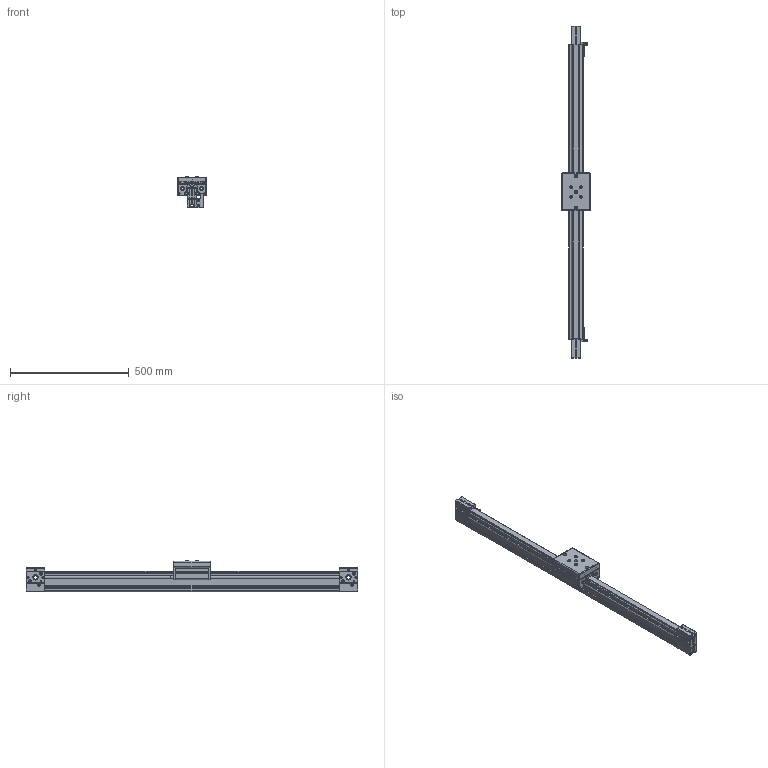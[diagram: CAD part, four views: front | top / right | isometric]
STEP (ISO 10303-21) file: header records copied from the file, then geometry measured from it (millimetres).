
FILE_DESCRIPTION(/* description */ ('Unknown'),/* implementation_level */ '2;1');
FILE_NAME(/* name */ '0.0.662.70 - LRE 8 D10 80X40 ZU 40 R25 1000',/* time_stamp */ '2022-09-08T11:47:29-05:00',/* author */ ('Unknown'),/* organization */ ('Unknown'),/* preprocessor_version */ 'ST-DEVELOPER v16.7',/* originating_system */ 'Solid Edge',/* authorisation */ 'Unknown');
FILE_SCHEMA (('AUTOMOTIVE_DESIGN {1 0 10303 214 3 1 1}'));
Length unit declared in the file: millimetre
Products named in the file (26): LRE 8 D10 80X40 ZU 40 R25; Linear Unit LRE 8 D10 80x40 ZU 40 R25 _ 0066270 - 1000 x 500 -  0 - V
3; Timing-Belt Reverse Unit 8 40 R25 with Bore D15 _ 0066252; Profil 8 80x40 LRE _ 0002604 - 1240 mm; Shaft-Clamp Profile 8 D10, natural _ 0044203 - 1240 mm; Shaft D10, bright _ 0040109 - 1240 mm; Slide LRF 8 D10 120x160 _ 0065832 - V1; Abdeckkappe_LRF_8_D10_120x28_-_0065772; Double-Bearing Unit 8 D10 c _ 0044215 - V1; ABSTREIF- UND_SCHMIERSYSTEM_8_D10_-_0044223 - 140; Huelse_-_0064105; Slide LRF 8 D10 120x160 _ 0065832; Schlittenprofil_LRF_8_D10_120x28_-_0065803 - Schlitten_LRF_8_D10_120x
160 - 152 mm - V1; Zylinderschraube _DIN_912_M6x80_verzinkt_-_8000153-LRF; Timing-Belt Tensioner, Tensioning Block 8 R25 _ 0042629 - V2; Timing Belt Tensioner, Fixing Block 8 R25 _ 0042630 - V1; Schlittenanschlag_LRE_8_-_0068650_LINKS - V1; Schlittenanschlag_8_Traeger_00068649_0068650 - V1; Schlittenanschlag_8_Anschlag_00068648_0068650 - V1; Zylinderschraube_DIN6912_M6x20_00066000_0068650; Nutenstein_8_St_2xM6-36_0064451_0068650; Schlittenanschlag_LRE_8_-_0068650_RECHTS - V1; Linear Unit LRE 8 D10 80x40 ZU 40 R25 _ 0066270 - 1000; Zahnriemen R25 T10 - 0066270 _ 0033710_oa_0; Sechskantmutter_DIN985_M6-8_LRF; Linear Unit LRE 8 D10 80x40 ZU 40 R25 plus per mm stroke _ 0066772 - 
1000 - Linear Unit LRE 8 D10 80x40 ZU 40 R25
Assembly tree (47 placements, depth 4):
  LRE 8 D10 80X40 ZU 40 R25
    Linear Unit LRE 8 D10 80x40 ZU 40 R25 _ 0066270 - 1000 x 500 -  0 - V
3
      Timing-Belt Reverse Unit 8 40 R25 with Bore D15 _ 0066252  x2
      Profil 8 80x40 LRE _ 0002604 - 1240 mm
      Shaft-Clamp Profile 8 D10, natural _ 0044203 - 1240 mm  x2
      Shaft D10, bright _ 0040109 - 1240 mm  x2
      Slide LRF 8 D10 120x160 _ 0065832 - V1
        Abdeckkappe_LRF_8_D10_120x28_-_0065772  x2
        Double-Bearing Unit 8 D10 c _ 0044215 - V1  x2
        ABSTREIF- UND_SCHMIERSYSTEM_8_D10_-_0044223 - 140  x2
        Huelse_-_0064105  x4
        Slide LRF 8 D10 120x160 _ 0065832
        Schlittenprofil_LRF_8_D10_120x28_-_0065803 - Schlitten_LRF_8_D10_120x
160 - 152 mm - V1
      Zylinderschraube _DIN_912_M6x80_verzinkt_-_8000153-LRF  x2
      Timing-Belt Tensioner, Tensioning Block 8 R25 _ 0042629 - V2  x2
      Timing Belt Tensioner, Fixing Block 8 R25 _ 0042630 - V1
      Schlittenanschlag_LRE_8_-_0068650_LINKS - V1
        Schlittenanschlag_8_Traeger_00068649_0068650 - V1
        Schlittenanschlag_8_Anschlag_00068648_0068650 - V1
        Zylinderschraube_DIN6912_M6x20_00066000_0068650  x4
        Nutenstein_8_St_2xM6-36_0064451_0068650
      Schlittenanschlag_LRE_8_-_0068650_RECHTS - V1
        Schlittenanschlag_8_Traeger_00068649_0068650 - V1
        Schlittenanschlag_8_Anschlag_00068648_0068650 - V1
        Zylinderschraube_DIN6912_M6x20_00066000_0068650  x4
        Nutenstein_8_St_2xM6-36_0064451_0068650
      Linear Unit LRE 8 D10 80x40 ZU 40 R25 _ 0066270 - 1000
      Zahnriemen R25 T10 - 0066270 _ 0033710_oa_0
      Sechskantmutter_DIN985_M6-8_LRF  x2
      Linear Unit LRE 8 D10 80x40 ZU 40 R25 plus per mm stroke _ 0066772 - 
1000 - Linear Unit LRE 8 D10 80x40 ZU 40 R25
Bounding box: 120 x 1400 x 131.8 mm (x, y, z)
Volume: 4216865.5 mm3; surface area: 1621976.2 mm2
Topology: 46 solids, 46 shells, 2114 faces, 5579 edges, 3595 vertices
Faces by surface type: plane 1112, cylinder 730, bspline 136, cone 50, torus 46, sphere 40
Full cylindrical faces by diameter (mm): 4.7 x4, 4.917 x14, 5 x6, 5.4 x4, 5.8 x4, 6 x42, 6.2 x4, 6.4 x10, 6.5 x1, 6.8 x10, 6.81 x4, 7 x18, 8 x4, 9 x7, 9.5 x4, 10 x14, 10.5 x20, 10.9 x4, 12 x8, 13 x4, 13.1 x2, 14 x12, 15 x5, 15.5 x4, 20.5 x4, 22 x4, 23 x4, 26.8 x8
Entity records: 43754 total; most frequent: CARTESIAN_POINT 9060, DIRECTION 5904, ORIENTED_EDGE 5852, EDGE_CURVE 2926, AXIS2_PLACEMENT_3D 2034, VERTEX_POINT 1980, LINE 1836, VECTOR 1836
